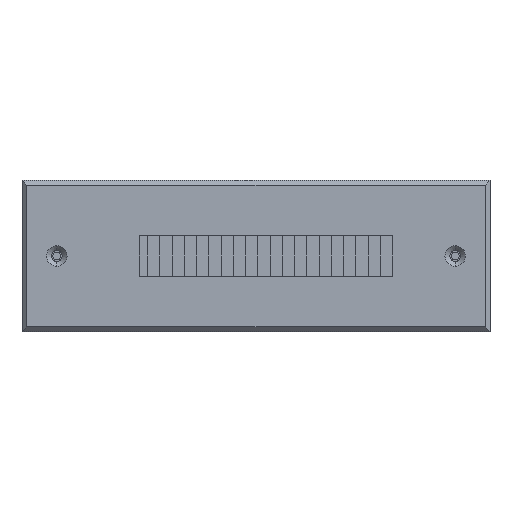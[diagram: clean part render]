
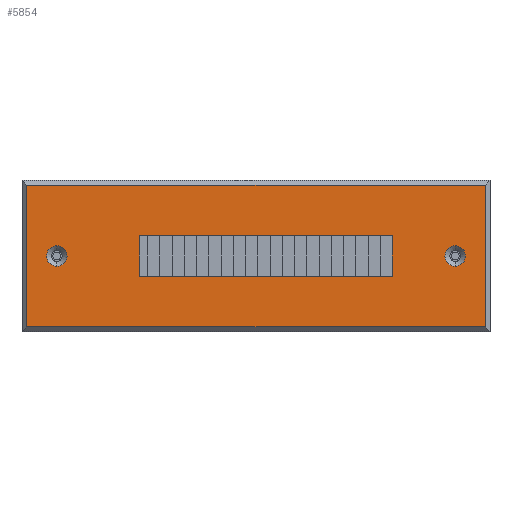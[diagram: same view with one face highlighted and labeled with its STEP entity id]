
A CAD part, front view. The second image highlights one B-rep face of the part: STEP entity #5854.
In plain terms, the highlighted planar face has unit normal (0, -1, 0) as drawn and (0, 1, 0) by its records, which use the part's own axes.
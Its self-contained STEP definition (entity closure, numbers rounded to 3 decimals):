
#1143=CARTESIAN_POINT('',(83.,3.,0.));
#1144=DIRECTION('',(0.,1.,0.));
#1145=DIRECTION('',(0.,0.,1.));
#1146=AXIS2_PLACEMENT_3D('',#1143,#1144,#1145);
#1151=CARTESIAN_POINT('',(83.,3.,0.));
#1152=DIRECTION('',(0.,1.,0.));
#1153=DIRECTION('',(0.,0.,-1.));
#1154=AXIS2_PLACEMENT_3D('',#1151,#1152,#1153);
#1159=CARTESIAN_POINT('',(-83.,3.,0.));
#1160=DIRECTION('',(0.,1.,0.));
#1161=DIRECTION('',(0.,0.,1.));
#1162=AXIS2_PLACEMENT_3D('',#1159,#1160,#1161);
#1167=CARTESIAN_POINT('',(-83.,3.,0.));
#1168=DIRECTION('',(0.,1.,0.));
#1169=DIRECTION('',(0.,0.,-1.));
#1170=AXIS2_PLACEMENT_3D('',#1167,#1168,#1169);
#1175=DIRECTION('',(1.,0.,0.));
#1176=VECTOR('',#1175,105.501);
#1177=CARTESIAN_POINT('',(-48.632,3.,-8.5));
#1178=LINE('',#1177,#1176);
#1182=DIRECTION('',(0.,0.,1.));
#1183=VECTOR('',#1182,17.);
#1184=CARTESIAN_POINT('',(-48.632,3.,-8.5));
#1185=LINE('',#1184,#1183);
#1189=DIRECTION('',(1.,0.,0.));
#1190=VECTOR('',#1189,105.501);
#1191=CARTESIAN_POINT('',(-48.632,3.,8.5));
#1192=LINE('',#1191,#1190);
#1196=DIRECTION('',(0.,0.,-1.));
#1197=VECTOR('',#1196,17.);
#1198=CARTESIAN_POINT('',(56.869,3.,8.5));
#1199=LINE('',#1198,#1197);
#1203=DIRECTION('',(1.,0.,0.));
#1204=VECTOR('',#1203,191.);
#1205=CARTESIAN_POINT('',(-95.5,3.,29.5));
#1206=LINE('',#1205,#1204);
#1231=DIRECTION('',(0.,0.,1.));
#1232=VECTOR('',#1231,59.);
#1233=CARTESIAN_POINT('',(-95.5,3.,-29.5));
#1234=LINE('',#1233,#1232);
#1266=DIRECTION('',(-1.,0.,0.));
#1267=VECTOR('',#1266,191.);
#1268=CARTESIAN_POINT('',(95.5,3.,-29.5));
#1269=LINE('',#1268,#1267);
#1273=DIRECTION('',(0.,0.,-1.));
#1274=VECTOR('',#1273,59.);
#1275=CARTESIAN_POINT('',(95.5,3.,29.5));
#1276=LINE('',#1275,#1274);
#4939=CARTESIAN_POINT('',(-95.5,3.,-29.5));
#4940=VERTEX_POINT('',#4939);
#4941=CARTESIAN_POINT('',(95.5,3.,-29.5));
#4942=VERTEX_POINT('',#4941);
#4943=CARTESIAN_POINT('',(-95.5,3.,29.5));
#4944=VERTEX_POINT('',#4943);
#4945=CARTESIAN_POINT('',(95.5,3.,29.5));
#4946=VERTEX_POINT('',#4945);
#4947=CARTESIAN_POINT('',(83.,3.,4.3));
#4948=CARTESIAN_POINT('',(83.,3.,-4.3));
#4949=VERTEX_POINT('',#4947);
#4950=VERTEX_POINT('',#4948);
#4951=CARTESIAN_POINT('',(-83.,3.,4.3));
#4952=CARTESIAN_POINT('',(-83.,3.,-4.3));
#4953=VERTEX_POINT('',#4951);
#4954=VERTEX_POINT('',#4952);
#5091=CARTESIAN_POINT('',(56.869,3.,8.5));
#5092=CARTESIAN_POINT('',(56.869,3.,-8.5));
#5093=VERTEX_POINT('',#5091);
#5094=VERTEX_POINT('',#5092);
#5239=CARTESIAN_POINT('',(-48.632,3.,-8.5));
#5240=CARTESIAN_POINT('',(-48.632,3.,8.5));
#5241=VERTEX_POINT('',#5239);
#5242=VERTEX_POINT('',#5240);
#5819=CARTESIAN_POINT('',(0.,3.,0.));
#5820=DIRECTION('',(0.,1.,0.));
#5821=DIRECTION('',(0.,0.,1.));
#5822=AXIS2_PLACEMENT_3D('',#5819,#5820,#5821);
#5823=PLANE('',#5822);
#5825=ORIENTED_EDGE('',*,*,#5824,.F.);
#5827=ORIENTED_EDGE('',*,*,#5826,.F.);
#5829=ORIENTED_EDGE('',*,*,#5828,.F.);
#5831=ORIENTED_EDGE('',*,*,#5830,.F.);
#5832=EDGE_LOOP('',(#5825,#5827,#5829,#5831));
#5833=FACE_OUTER_BOUND('',#5832,.F.);
#5834=ORIENTED_EDGE('',*,*,#5812,.T.);
#5835=ORIENTED_EDGE('',*,*,#5799,.T.);
#5836=EDGE_LOOP('',(#5834,#5835));
#5837=FACE_BOUND('',#5836,.F.);
#5839=ORIENTED_EDGE('',*,*,#5838,.T.);
#5841=ORIENTED_EDGE('',*,*,#5840,.T.);
#5842=EDGE_LOOP('',(#5839,#5841));
#5843=FACE_BOUND('',#5842,.F.);
#5845=ORIENTED_EDGE('',*,*,#5844,.F.);
#5847=ORIENTED_EDGE('',*,*,#5846,.T.);
#5849=ORIENTED_EDGE('',*,*,#5848,.T.);
#5851=ORIENTED_EDGE('',*,*,#5850,.T.);
#5852=EDGE_LOOP('',(#5845,#5847,#5849,#5851));
#5853=FACE_BOUND('',#5852,.F.);
#1147=CIRCLE('',#1146,4.3);
#1155=CIRCLE('',#1154,4.3);
#1163=CIRCLE('',#1162,4.3);
#1171=CIRCLE('',#1170,4.3);
#5799=EDGE_CURVE('',#4950,#4949,#1155,.T.);
#5812=EDGE_CURVE('',#4949,#4950,#1147,.T.);
#5824=EDGE_CURVE('',#4944,#4946,#1206,.T.);
#5826=EDGE_CURVE('',#4940,#4944,#1234,.T.);
#5828=EDGE_CURVE('',#4942,#4940,#1269,.T.);
#5830=EDGE_CURVE('',#4946,#4942,#1276,.T.);
#5838=EDGE_CURVE('',#4953,#4954,#1163,.T.);
#5840=EDGE_CURVE('',#4954,#4953,#1171,.T.);
#5844=EDGE_CURVE('',#5241,#5094,#1178,.T.);
#5846=EDGE_CURVE('',#5241,#5242,#1185,.T.);
#5848=EDGE_CURVE('',#5242,#5093,#1192,.T.);
#5850=EDGE_CURVE('',#5093,#5094,#1199,.T.);
#5854=ADVANCED_FACE('',(#5833,#5837,#5843,#5853),#5823,.T.);
